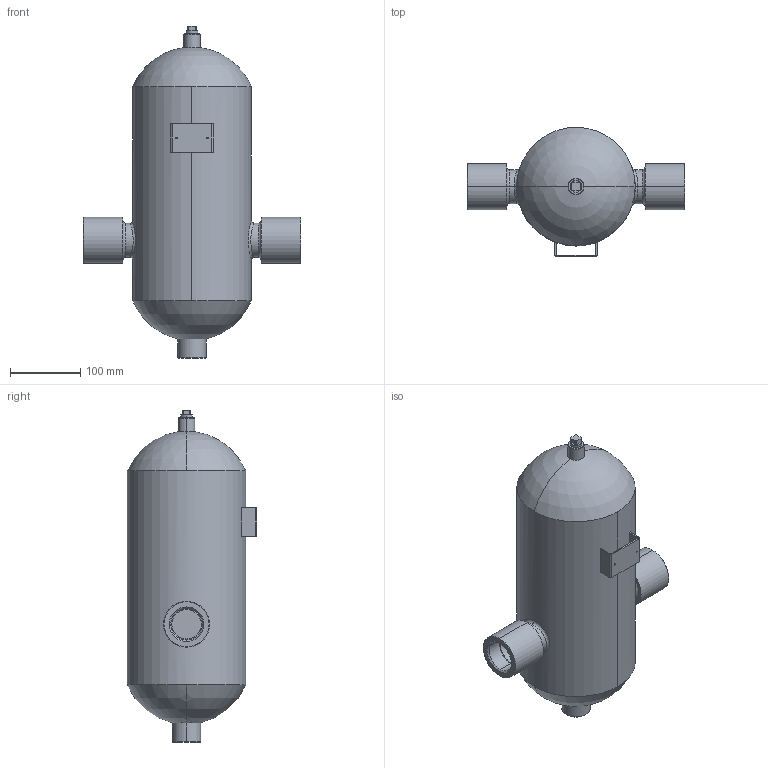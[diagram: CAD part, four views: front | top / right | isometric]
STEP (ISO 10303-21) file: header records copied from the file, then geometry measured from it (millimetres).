
FILE_DESCRIPTION( (''), '2;1');
FILE_NAME ('PC2078.19660.DS-10 40A_9709.stp','2026-03-10T12:50:50',(''),(''),'spGate 20.6.3 (****-****-****-****)','','');
FILE_SCHEMA (('AUTOMOTIVE_DESIGN'));
Length unit declared in the file: millimetre
Products named in the file (3): Assembly; 40A JIS Rc; 10Aプラグ
Assembly tree (2 placements, depth 2):
  Assembly
    40A JIS Rc
    10Aプラグ
Bounding box: 308 x 183.5 x 471 mm (x, y, z)
Volume: 1540752 mm3; surface area: 629705.5 mm2
Topology: 2 solids, 2 shells, 140 faces, 342 edges, 220 vertices
Faces by surface type: plane 70, cylinder 40, bspline 26, sphere 4
Entity records: 8506 total; most frequent: CARTESIAN_POINT 2534, ORIENTED_EDGE 684, DIRECTION 604, COLOUR_RGB 484, PRESENTATION_STYLE_ASSIGNMENT 484, STYLED_ITEM 484, EDGE_CURVE 342, DRAUGHTING_PRE_DEFINED_CURVE_FONT 342
